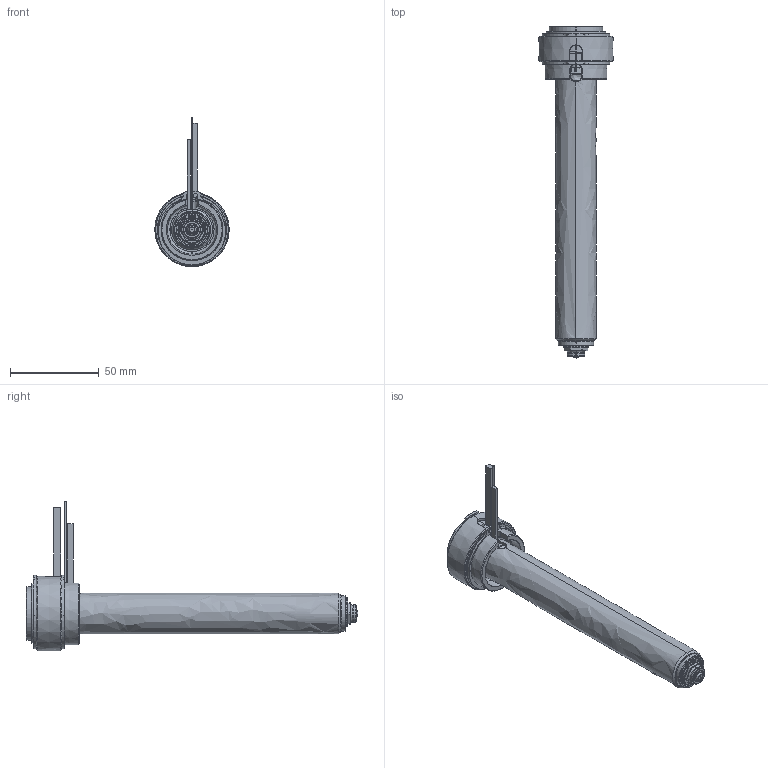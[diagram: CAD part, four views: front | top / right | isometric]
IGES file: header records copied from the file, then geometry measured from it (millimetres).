
Start section: SolidWorks IGES file using analytic representation for surfaces
Global section: file name: C:\Documents and Settings\ws-20\Desktop\TEM\UGER3554-M-A-1 [Øb-0.50  ØC-7.0].IGS; native system: SolidWorks 2012; preprocessor: SolidWorks 2012; author: ws-20; date: 120410.101339; units: millimetre
Bounding box: 42 x 187.4 x 84.4 mm (x, y, z)
Surface area: 42473.8 mm2 (no closed solid volume)
Topology: 0 solids, 0 shells, 190 faces, 3202 edges, 3202 vertices
Faces by surface type: revolution 119, bspline 71
